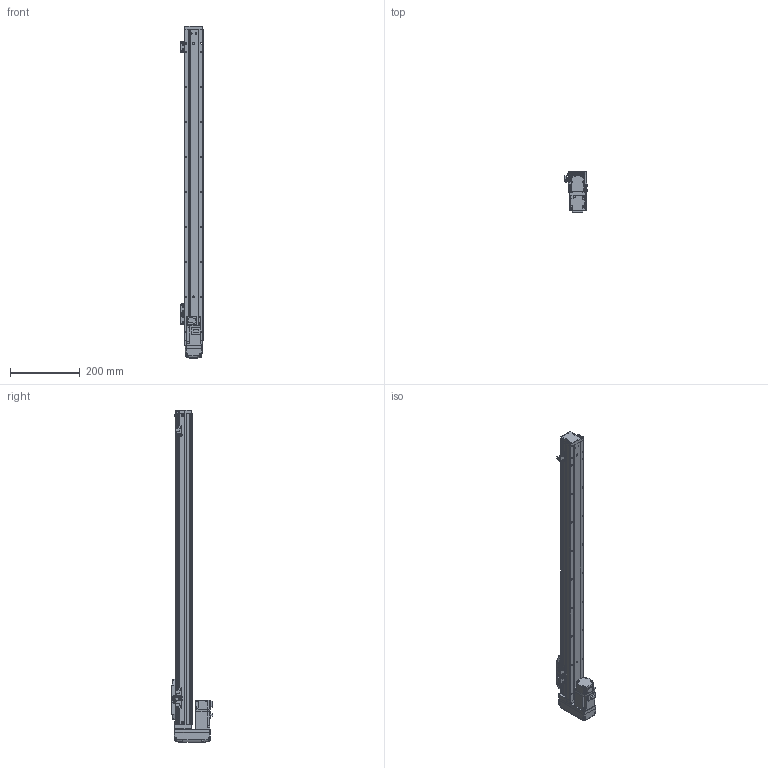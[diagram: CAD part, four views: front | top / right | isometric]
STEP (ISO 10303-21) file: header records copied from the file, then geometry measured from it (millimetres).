
FILE_DESCRIPTION (( 'STEP AP203' ), '1' );
FILE_NAME ('GTH5-750-BM-M10-C4.step', '2022-09-23T00:48:38', ( '微软用户' ), ( '微软中国' ), 'SwSTEP 2.0', 'SolidWorks 2020', '' );
FILE_SCHEMA (( 'CONFIG_CONTROL_DESIGN' ));
Length unit declared in the file: millimetre
Products named in the file (19): GTH50-003; GTH50-028; GTH50-006; GTH50-013; GTH50-022-1; GTH50-004; GTH50-023; HG-KR13; GBT 70.3-M3℅6; GBT 70.1-M3℅6; GTH50-027-1_BTHA50-027-2; BTH-M3X5X6; GBT96.1-2002 3×0.8; GBT 70.1-M2.5×6; GTH50-026; GTH50-001_750; GTH50-024; GTH5-750-BM-M10-C4; GBT 70.1-M4×16
Assembly tree (57 placements, depth 2):
  GTH5-750-BM-M10-C4
    GTH50-006
    GTH50-004
    GBT 70.3-M3℅6  x4
    BTH-M3X5X6  x8
    GTH50-001_750
    GBT 70.1-M4×16  x8
    GTH50-003
    GTH50-013
    GTH50-023  x3
    GBT 70.1-M3℅6  x12
    GBT96.1-2002 3×0.8  x6
    GTH50-024  x3
    GBT 70.1-M2.5×6  x2
    GTH50-028  x2
    GTH50-022-1
    HG-KR13
    GTH50-027-1_BTHA50-027-2
    GTH50-026
Bounding box: 63.8 x 118.9 x 950 mm (x, y, z)
Volume: 2123371.6 mm3; surface area: 341315.4 mm2
Topology: 59 solids, 59 shells, 2168 faces, 5040 edges, 3092 vertices
Faces by surface type: plane 1142, cylinder 597, cone 219, torus 162, bspline 40, sphere 8
Entity records: 40456 total; most frequent: CARTESIAN_POINT 7995, DIRECTION 6241, ORIENTED_EDGE 5994, EDGE_CURVE 2997, AXIS2_PLACEMENT_3D 2176, VERTEX_POINT 1894, LINE 1889, VECTOR 1889
